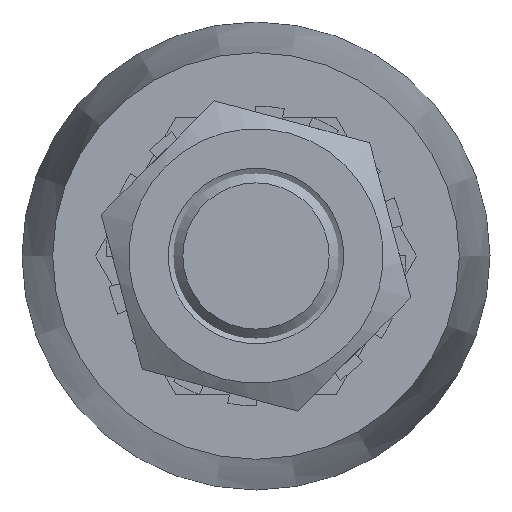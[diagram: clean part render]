
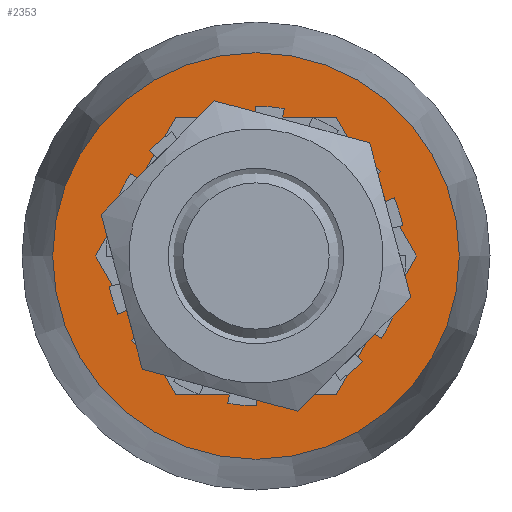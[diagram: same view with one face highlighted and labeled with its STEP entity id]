
A CAD part, front view. The second image highlights one B-rep face of the part: STEP entity #2353.
In plain terms, the highlighted planar face has unit normal (0, -1, 0).
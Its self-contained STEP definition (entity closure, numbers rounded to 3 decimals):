
#506=PLANE('',#2504);
#568=FACE_BOUND('',#741,.T.);
#596=FACE_OUTER_BOUND('',#740,.T.);
#740=EDGE_LOOP('',(#1652));
#741=EDGE_LOOP('',(#1653));
#895=CIRCLE('',#2493,13.9);
#900=CIRCLE('',#2503,7.1);
#1049=VERTEX_POINT('',#3587);
#1054=VERTEX_POINT('',#3602);
#1291=EDGE_CURVE('',#1049,#1049,#895,.T.);
#1296=EDGE_CURVE('',#1054,#1054,#900,.T.);
#1652=ORIENTED_EDGE('',*,*,#1291,.F.);
#1653=ORIENTED_EDGE('',*,*,#1296,.T.);
#2353=ADVANCED_FACE('',(#596,#568),#506,.T.);
#2493=AXIS2_PLACEMENT_3D('',#3588,#2799,#2800);
#2503=AXIS2_PLACEMENT_3D('',#3603,#2819,#2820);
#2504=AXIS2_PLACEMENT_3D('',#3604,#2821,#2822);
#2799=DIRECTION('center_axis',(0.,1.,0.));
#2800=DIRECTION('ref_axis',(-1.,0.,0.));
#2819=DIRECTION('center_axis',(0.,1.,0.));
#2820=DIRECTION('ref_axis',(-1.,0.,0.));
#2821=DIRECTION('center_axis',(0.,-1.,0.));
#2822=DIRECTION('ref_axis',(0.,0.,-1.));
#3587=CARTESIAN_POINT('',(-13.9,0.,0.));
#3588=CARTESIAN_POINT('Origin',(0.,0.,0.));
#3602=CARTESIAN_POINT('',(-7.1,0.,0.));
#3603=CARTESIAN_POINT('Origin',(0.,0.,0.));
#3604=CARTESIAN_POINT('Origin',(-10.5,0.,0.));
